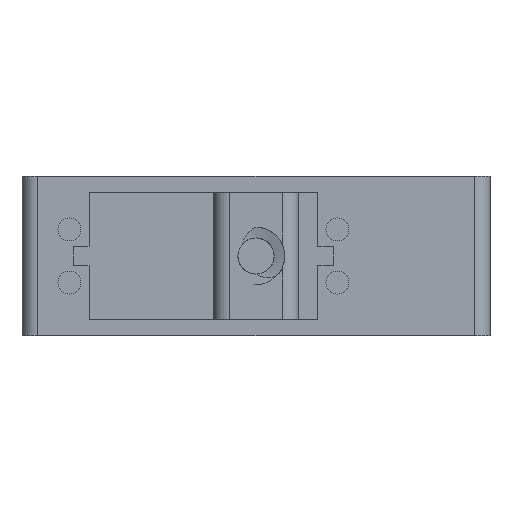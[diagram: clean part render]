
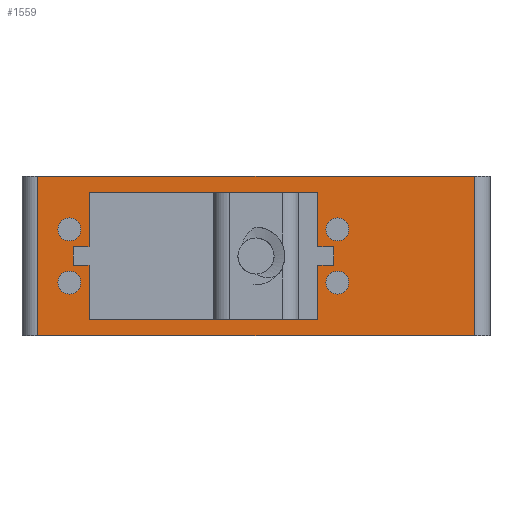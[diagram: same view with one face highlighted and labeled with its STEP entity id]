
A CAD part, front view. The second image highlights one B-rep face of the part: STEP entity #1559.
In plain terms, the highlighted planar face has unit normal (0, -1, 0).
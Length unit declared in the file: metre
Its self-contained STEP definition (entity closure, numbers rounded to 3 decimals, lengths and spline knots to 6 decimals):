
#71=CIRCLE('',#1677,0.00215);
#72=CIRCLE('',#1678,0.00215);
#73=CIRCLE('',#1679,0.00215);
#74=CIRCLE('',#1680,0.00215);
#214=ORIENTED_EDGE('',*,*,#656,.F.);
#215=ORIENTED_EDGE('',*,*,#657,.F.);
#216=ORIENTED_EDGE('',*,*,#658,.F.);
#217=ORIENTED_EDGE('',*,*,#659,.F.);
#218=ORIENTED_EDGE('',*,*,#549,.F.);
#219=ORIENTED_EDGE('',*,*,#660,.T.);
#220=ORIENTED_EDGE('',*,*,#599,.T.);
#221=ORIENTED_EDGE('',*,*,#661,.T.);
#222=ORIENTED_EDGE('',*,*,#662,.T.);
#223=ORIENTED_EDGE('',*,*,#663,.T.);
#224=ORIENTED_EDGE('',*,*,#664,.F.);
#225=ORIENTED_EDGE('',*,*,#665,.T.);
#226=ORIENTED_EDGE('',*,*,#666,.F.);
#227=ORIENTED_EDGE('',*,*,#667,.F.);
#228=ORIENTED_EDGE('',*,*,#668,.F.);
#229=ORIENTED_EDGE('',*,*,#669,.F.);
#230=ORIENTED_EDGE('',*,*,#670,.T.);
#231=ORIENTED_EDGE('',*,*,#671,.F.);
#232=ORIENTED_EDGE('',*,*,#672,.T.);
#233=ORIENTED_EDGE('',*,*,#673,.T.);
#549=EDGE_CURVE('',#771,#772,#926,.T.);
#599=EDGE_CURVE('',#821,#822,#967,.T.);
#656=EDGE_CURVE('',#876,#876,#71,.T.);
#657=EDGE_CURVE('',#877,#877,#72,.T.);
#658=EDGE_CURVE('',#878,#878,#73,.T.);
#659=EDGE_CURVE('',#879,#879,#74,.T.);
#660=EDGE_CURVE('',#771,#821,#1010,.T.);
#661=EDGE_CURVE('',#822,#772,#1011,.F.);
#662=EDGE_CURVE('',#880,#881,#1012,.T.);
#663=EDGE_CURVE('',#881,#882,#1013,.T.);
#664=EDGE_CURVE('',#883,#882,#1014,.T.);
#665=EDGE_CURVE('',#883,#884,#1015,.T.);
#666=EDGE_CURVE('',#885,#884,#1016,.T.);
#667=EDGE_CURVE('',#886,#885,#1017,.T.);
#668=EDGE_CURVE('',#887,#886,#1018,.T.);
#669=EDGE_CURVE('',#888,#887,#1019,.T.);
#670=EDGE_CURVE('',#888,#889,#1020,.T.);
#671=EDGE_CURVE('',#890,#889,#1021,.T.);
#672=EDGE_CURVE('',#890,#891,#1022,.T.);
#673=EDGE_CURVE('',#891,#880,#1023,.T.);
#771=VERTEX_POINT('',#2216);
#772=VERTEX_POINT('',#2218);
#821=VERTEX_POINT('',#2318);
#822=VERTEX_POINT('',#2319);
#876=VERTEX_POINT('',#2432);
#877=VERTEX_POINT('',#2434);
#878=VERTEX_POINT('',#2436);
#879=VERTEX_POINT('',#2438);
#880=VERTEX_POINT('',#2442);
#881=VERTEX_POINT('',#2443);
#882=VERTEX_POINT('',#2445);
#883=VERTEX_POINT('',#2447);
#884=VERTEX_POINT('',#2449);
#885=VERTEX_POINT('',#2451);
#886=VERTEX_POINT('',#2453);
#887=VERTEX_POINT('',#2455);
#888=VERTEX_POINT('',#2457);
#889=VERTEX_POINT('',#2459);
#890=VERTEX_POINT('',#2461);
#891=VERTEX_POINT('',#2463);
#926=LINE('',#2217,#1090);
#967=LINE('',#2317,#1131);
#1010=LINE('',#2439,#1174);
#1011=LINE('',#2440,#1175);
#1012=LINE('',#2441,#1176);
#1013=LINE('',#2444,#1177);
#1014=LINE('',#2446,#1178);
#1015=LINE('',#2448,#1179);
#1016=LINE('',#2450,#1180);
#1017=LINE('',#2452,#1181);
#1018=LINE('',#2454,#1182);
#1019=LINE('',#2456,#1183);
#1020=LINE('',#2458,#1184);
#1021=LINE('',#2460,#1185);
#1022=LINE('',#2462,#1186);
#1023=LINE('',#2464,#1187);
#1090=VECTOR('',#1790,1.);
#1131=VECTOR('',#1851,1.);
#1174=VECTOR('',#1934,1.);
#1175=VECTOR('',#1935,1.);
#1176=VECTOR('',#1936,1.);
#1177=VECTOR('',#1937,1.);
#1178=VECTOR('',#1938,1.);
#1179=VECTOR('',#1939,1.);
#1180=VECTOR('',#1940,1.);
#1181=VECTOR('',#1941,1.);
#1182=VECTOR('',#1942,1.);
#1183=VECTOR('',#1943,1.);
#1184=VECTOR('',#1944,1.);
#1185=VECTOR('',#1945,1.);
#1186=VECTOR('',#1946,1.);
#1187=VECTOR('',#1947,1.);
#1264=EDGE_LOOP('',(#214));
#1265=EDGE_LOOP('',(#215));
#1266=EDGE_LOOP('',(#216));
#1267=EDGE_LOOP('',(#217));
#1268=EDGE_LOOP('',(#218,#219,#220,#221));
#1269=EDGE_LOOP('',(#222,#223,#224,#225,#226,#227,#228,#229,#230,#231,#232,
#233));
#1392=FACE_BOUND('',#1264,.T.);
#1393=FACE_BOUND('',#1265,.T.);
#1394=FACE_BOUND('',#1266,.T.);
#1395=FACE_BOUND('',#1267,.T.);
#1396=FACE_BOUND('',#1268,.T.);
#1397=FACE_BOUND('',#1269,.T.);
#1505=PLANE('',#1676);
#1559=ADVANCED_FACE('',(#1392,#1393,#1394,#1395,#1396,#1397),#1505,.F.);
#1676=AXIS2_PLACEMENT_3D('',#2430,#1924,#1925);
#1677=AXIS2_PLACEMENT_3D('',#2431,#1926,#1927);
#1678=AXIS2_PLACEMENT_3D('',#2433,#1928,#1929);
#1679=AXIS2_PLACEMENT_3D('',#2435,#1930,#1931);
#1680=AXIS2_PLACEMENT_3D('',#2437,#1932,#1933);
#1790=DIRECTION('',(1.,0.,0.));
#1851=DIRECTION('',(1.,0.,0.));
#1924=DIRECTION('',(0.,1.,0.));
#1925=DIRECTION('',(0.,0.,1.));
#1926=DIRECTION('',(0.,-1.,0.));
#1927=DIRECTION('',(0.,0.,-1.));
#1928=DIRECTION('',(0.,-1.,0.));
#1929=DIRECTION('',(0.,0.,-1.));
#1930=DIRECTION('',(0.,-1.,0.));
#1931=DIRECTION('',(0.,0.,-1.));
#1932=DIRECTION('',(0.,-1.,0.));
#1933=DIRECTION('',(0.,0.,-1.));
#1934=DIRECTION('',(0.,0.,-1.));
#1935=DIRECTION('',(0.,0.,-1.));
#1936=DIRECTION('',(1.,0.,0.));
#1937=DIRECTION('',(0.,0.,-1.));
#1938=DIRECTION('',(1.,0.,0.));
#1939=DIRECTION('',(0.,0.,-1.));
#1940=DIRECTION('',(1.,0.,0.));
#1941=DIRECTION('',(0.,0.,-1.));
#1942=DIRECTION('',(1.,0.,0.));
#1943=DIRECTION('',(0.,0.,-1.));
#1944=DIRECTION('',(1.,0.,0.));
#1945=DIRECTION('',(0.,0.,-1.));
#1946=DIRECTION('',(1.,0.,0.));
#1947=DIRECTION('',(0.,0.,-1.));
#2216=CARTESIAN_POINT('',(-0.059411,-0.118319,0.03));
#2217=CARTESIAN_POINT('',(-0.018411,-0.118319,0.03));
#2218=CARTESIAN_POINT('',(0.022589,-0.118319,0.03));
#2317=CARTESIAN_POINT('',(-0.018411,-0.118319,0.));
#2318=CARTESIAN_POINT('',(-0.059411,-0.118319,0.));
#2319=CARTESIAN_POINT('',(0.022589,-0.118319,0.));
#2430=CARTESIAN_POINT('',(-0.018411,-0.118319,0.03));
#2431=CARTESIAN_POINT('',(-0.053511,-0.118319,0.01));
#2432=CARTESIAN_POINT('',(-0.053511,-0.118319,0.00785));
#2433=CARTESIAN_POINT('',(-0.053511,-0.118319,0.02));
#2434=CARTESIAN_POINT('',(-0.053511,-0.118319,0.01785));
#2435=CARTESIAN_POINT('',(-0.003111,-0.118319,0.01));
#2436=CARTESIAN_POINT('',(-0.003111,-0.118319,0.00785));
#2437=CARTESIAN_POINT('',(-0.003111,-0.118319,0.02));
#2438=CARTESIAN_POINT('',(-0.003111,-0.118319,0.01785));
#2439=CARTESIAN_POINT('',(-0.059411,-0.118319,0.03));
#2440=CARTESIAN_POINT('',(0.022589,-0.118319,0.03));
#2441=CARTESIAN_POINT('',(-0.005311,-0.118319,0.01675));
#2442=CARTESIAN_POINT('',(-0.006811,-0.118319,0.01675));
#2443=CARTESIAN_POINT('',(-0.003811,-0.118319,0.01675));
#2444=CARTESIAN_POINT('',(-0.003811,-0.118319,0.015));
#2445=CARTESIAN_POINT('',(-0.003811,-0.118319,0.01325));
#2446=CARTESIAN_POINT('',(-0.005311,-0.118319,0.01325));
#2447=CARTESIAN_POINT('',(-0.006811,-0.118319,0.01325));
#2448=CARTESIAN_POINT('',(-0.006811,-0.118319,0.008125));
#2449=CARTESIAN_POINT('',(-0.006811,-0.118319,0.003));
#2450=CARTESIAN_POINT('',(-0.028311,-0.118319,0.003));
#2451=CARTESIAN_POINT('',(-0.049811,-0.118319,0.003));
#2452=CARTESIAN_POINT('',(-0.049811,-0.118319,0.008125));
#2453=CARTESIAN_POINT('',(-0.049811,-0.118319,0.01325));
#2454=CARTESIAN_POINT('',(-0.051311,-0.118319,0.01325));
#2455=CARTESIAN_POINT('',(-0.052811,-0.118319,0.01325));
#2456=CARTESIAN_POINT('',(-0.052811,-0.118319,0.015));
#2457=CARTESIAN_POINT('',(-0.052811,-0.118319,0.01675));
#2458=CARTESIAN_POINT('',(-0.051311,-0.118319,0.01675));
#2459=CARTESIAN_POINT('',(-0.049811,-0.118319,0.01675));
#2460=CARTESIAN_POINT('',(-0.049811,-0.118319,0.021875));
#2461=CARTESIAN_POINT('',(-0.049811,-0.118319,0.027));
#2462=CARTESIAN_POINT('',(-0.028311,-0.118319,0.027));
#2463=CARTESIAN_POINT('',(-0.006811,-0.118319,0.027));
#2464=CARTESIAN_POINT('',(-0.006811,-0.118319,0.021875));
